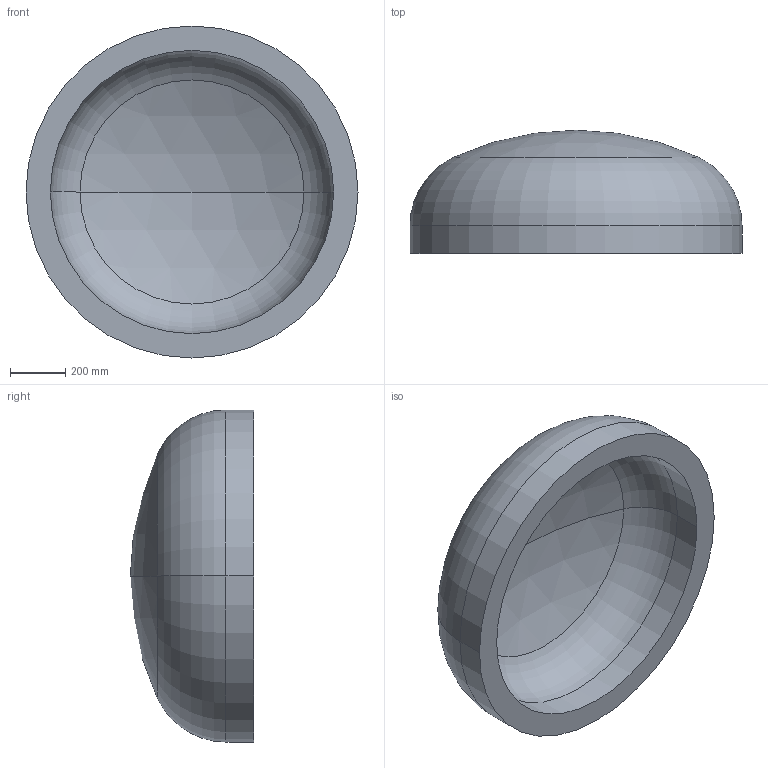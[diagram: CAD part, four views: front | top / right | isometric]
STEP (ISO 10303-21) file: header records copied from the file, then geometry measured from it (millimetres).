
FILE_DESCRIPTION (( 'STEP AP203' ), '1' );
FILE_NAME ('DIN 28013 Korbbogenform_-_Boden DIN 28013 - 1200 x 100 - I - s=88.step', '2016-07-01T09:36:10', ( '' ), ( '' ), 'SwSTEP 2.0', 'SolidWorks 2013', '' );
FILE_SCHEMA (( 'CONFIG_CONTROL_DESIGN' ));
Length unit declared in the file: millimetre
Products named in the file (1): DIN 28013 Korbbogenform_-_Boden DIN 28013 - 1200 x 100 - I - s=88
Bounding box: 1200 x 445.37 x 1200 mm (x, y, z)
Volume: 156432620.4 mm3; surface area: 3878928.8 mm2
Topology: 1 solids, 1 shells, 13 faces, 24 edges, 14 vertices
Faces by surface type: torus 4, cylinder 4, sphere 4, plane 1
Entity records: 407 total; most frequent: DIRECTION 72, CARTESIAN_POINT 52, ORIENTED_EDGE 48, AXIS2_PLACEMENT_3D 34, EDGE_CURVE 24, CIRCLE 20, VERTEX_POINT 14, EDGE_LOOP 14
